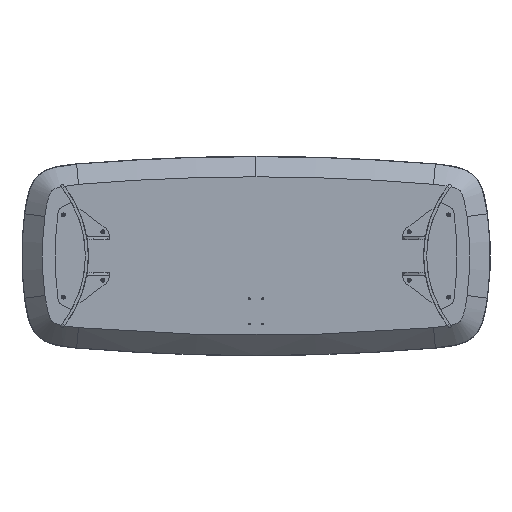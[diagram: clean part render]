
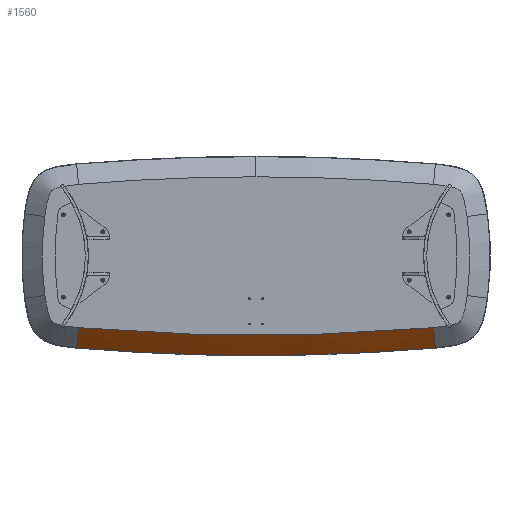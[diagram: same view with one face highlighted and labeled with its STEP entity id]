
A CAD part, front view. The second image highlights one B-rep face of the part: STEP entity #1560.
In plain terms, the highlighted conical face has half-angle 45 degrees and reference radius 5863 mm.
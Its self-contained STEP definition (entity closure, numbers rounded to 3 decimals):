
#1 = DIRECTION ( 'NONE',  ( 0., 1., 0. ) ) ;
#40 = CARTESIAN_POINT ( 'NONE',  ( 0., 56.414, -276.414 ) ) ;
#674 = ORIENTED_EDGE ( 'NONE', *, *, #9024, .F. ) ;
#708 = AXIS2_PLACEMENT_3D ( 'NONE', #8612, #2136, #7850 ) ;
#933 = VERTEX_POINT ( 'NONE', #6207 ) ;
#1148 = VERTEX_POINT ( 'NONE', #40 ) ;
#1360 = B_SPLINE_CURVE_WITH_KNOTS ( 'NONE', 3,
 ( #3405, #2442, #5587, #11140 ),
 .UNSPECIFIED., .F., .F.,
 ( 4, 4 ),
 ( 0.01, 1. ),
 .UNSPECIFIED. ) ;
#1560 = ADVANCED_FACE ( 'NONE', ( #1593 ), #8052, .T. ) ;
#1593 = FACE_OUTER_BOUND ( 'NONE', #7089, .T. ) ;
#1620 = CARTESIAN_POINT ( 'NONE',  ( -493.338, 0., -199.207 ) ) ;
#2136 = DIRECTION ( 'NONE',  ( 0., -1., 0. ) ) ;
#2442 = CARTESIAN_POINT ( 'NONE',  ( 496.503, 37.609, -236.683 ) ) ;
#2600 = ORIENTED_EDGE ( 'NONE', *, *, #4398, .T. ) ;
#2691 = AXIS2_PLACEMENT_3D ( 'NONE', #9482, #11385, #6583 ) ;
#3405 = CARTESIAN_POINT ( 'NONE',  ( 498.085, 56.414, -255.421 ) ) ;
#3903 = CIRCLE ( 'NONE', #2691, 5863. ) ;
#4011 = VERTEX_POINT ( 'NONE', #9689 ) ;
#4027 = DIRECTION ( 'NONE',  ( 0., -1., 0. ) ) ;
#4087 = DIRECTION ( 'NONE',  ( 0., 0., -1. ) ) ;
#4398 = EDGE_CURVE ( 'NONE', #1148, #4011, #11329, .T. ) ;
#4474 = CARTESIAN_POINT ( 'NONE',  ( 0., 56.414, 5643. ) ) ;
#4788 = CARTESIAN_POINT ( 'NONE',  ( 0., 0., 5643. ) ) ;
#5587 = CARTESIAN_POINT ( 'NONE',  ( 494.921, 18.805, -217.945 ) ) ;
#5683 = EDGE_CURVE ( 'NONE', #9194, #933, #3903, .T. ) ;
#6207 = CARTESIAN_POINT ( 'NONE',  ( 493.338, 0., -199.207 ) ) ;
#6583 = DIRECTION ( 'NONE',  ( 0., 0., 1. ) ) ;
#7089 = EDGE_LOOP ( 'NONE', ( #674, #11945, #2600, #12362, #7381 ) ) ;
#7381 = ORIENTED_EDGE ( 'NONE', *, *, #5683, .F. ) ;
#7478 = CARTESIAN_POINT ( 'NONE',  ( -498.085, 56.414, -255.421 ) ) ;
#7725 = CIRCLE ( 'NONE', #708, 5919.414 ) ;
#7837 = EDGE_CURVE ( 'NONE', #4011, #933, #1360, .T. ) ;
#7850 = DIRECTION ( 'NONE',  ( 0., 0., -1. ) ) ;
#8052 = CONICAL_SURFACE ( 'NONE', #10071, 5863., 0.785 ) ;
#8080 = VERTEX_POINT ( 'NONE', #7478 ) ;
#8285 = AXIS2_PLACEMENT_3D ( 'NONE', #4474, #4027, #4087 ) ;
#8612 = CARTESIAN_POINT ( 'NONE',  ( 0., 56.414, 5643. ) ) ;
#8783 = CARTESIAN_POINT ( 'NONE',  ( -493.338, 0., -199.207 ) ) ;
#9024 = EDGE_CURVE ( 'NONE', #8080, #9194, #12454, .T. ) ;
#9194 = VERTEX_POINT ( 'NONE', #8783 ) ;
#9482 = CARTESIAN_POINT ( 'NONE',  ( 0., 0., 5643. ) ) ;
#9689 = CARTESIAN_POINT ( 'NONE',  ( 498.085, 56.414, -255.421 ) ) ;
#10071 = AXIS2_PLACEMENT_3D ( 'NONE', #4788, #1, #11465 ) ;
#10300 = CARTESIAN_POINT ( 'NONE',  ( -498.085, 56.414, -255.421 ) ) ;
#10312 = EDGE_CURVE ( 'NONE', #8080, #1148, #7725, .T. ) ;
#11140 = CARTESIAN_POINT ( 'NONE',  ( 493.338, 0., -199.207 ) ) ;
#11329 = CIRCLE ( 'NONE', #8285, 5919.414 ) ;
#11385 = DIRECTION ( 'NONE',  ( 0., -1., 0. ) ) ;
#11465 = DIRECTION ( 'NONE',  ( 0., 0., 1. ) ) ;
#11945 = ORIENTED_EDGE ( 'NONE', *, *, #10312, .T. ) ;
#12362 = ORIENTED_EDGE ( 'NONE', *, *, #7837, .T. ) ;
#12454 = B_SPLINE_CURVE_WITH_KNOTS ( 'NONE', 1,
 ( #10300, #1620 ),
 .UNSPECIFIED., .F., .F.,
 ( 2, 2 ),
 ( 0.01, 1. ),
 .UNSPECIFIED. ) ;
